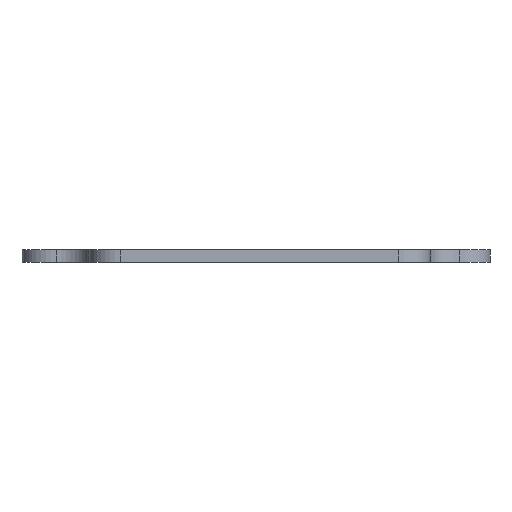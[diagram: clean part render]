
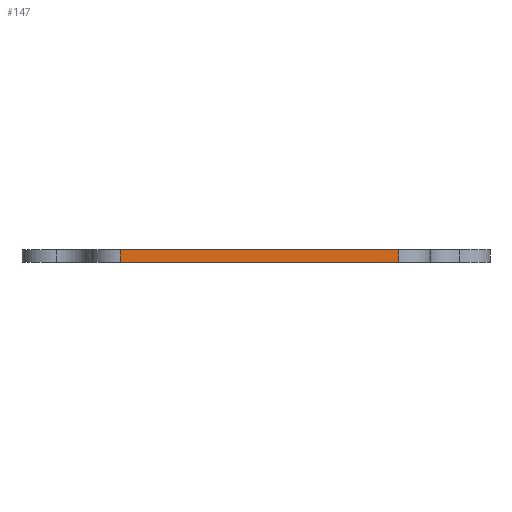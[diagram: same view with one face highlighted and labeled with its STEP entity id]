
A CAD part, left-side view. The second image highlights one B-rep face of the part: STEP entity #147.
In plain terms, the highlighted planar face has unit normal (-1, 0, 0).
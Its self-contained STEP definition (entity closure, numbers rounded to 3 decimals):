
#21 = EDGE_CURVE('',#22,#24,#26,.T.);
#22 = VERTEX_POINT('',#23);
#23 = CARTESIAN_POINT('',(2.2,132.611,24.));
#24 = VERTEX_POINT('',#25);
#25 = CARTESIAN_POINT('',(2.2,132.611,22.6));
#26 = SURFACE_CURVE('',#27,(#31,#43),.PCURVE_S1.);
#27 = LINE('',#28,#29);
#28 = CARTESIAN_POINT('',(2.2,132.611,24.));
#29 = VECTOR('',#30,1.);
#30 = DIRECTION('',(0.,0.,-1.));
#31 = PCURVE('',#32,#37);
#32 = CYLINDRICAL_SURFACE('',#33,3.6);
#33 = AXIS2_PLACEMENT_3D('',#34,#35,#36);
#34 = CARTESIAN_POINT('',(5.8,132.611,24.));
#35 = DIRECTION('',(0.,-0.,1.));
#36 = DIRECTION('',(0.,-1.,-0.));
#37 = DEFINITIONAL_REPRESENTATION('',(#38),#42);
#38 = LINE('',#39,#40);
#39 = CARTESIAN_POINT('',(-1.571,0.));
#40 = VECTOR('',#41,1.);
#41 = DIRECTION('',(-0.,-1.));
#42 = ( GEOMETRIC_REPRESENTATION_CONTEXT(2) 
PARAMETRIC_REPRESENTATION_CONTEXT() REPRESENTATION_CONTEXT('2D SPACE',''
  ) );
#43 = PCURVE('',#44,#49);
#44 = PLANE('',#45);
#45 = AXIS2_PLACEMENT_3D('',#46,#47,#48);
#46 = CARTESIAN_POINT('',(2.2,132.611,24.));
#47 = DIRECTION('',(-1.,0.,-0.));
#48 = DIRECTION('',(0.,-1.,-0.));
#49 = DEFINITIONAL_REPRESENTATION('',(#50),#54);
#50 = LINE('',#51,#52);
#51 = CARTESIAN_POINT('',(0.,0.));
#52 = VECTOR('',#53,1.);
#53 = DIRECTION('',(0.,-1.));
#54 = ( GEOMETRIC_REPRESENTATION_CONTEXT(2) 
PARAMETRIC_REPRESENTATION_CONTEXT() REPRESENTATION_CONTEXT('2D SPACE',''
  ) );
#73 = PLANE('',#74);
#74 = AXIS2_PLACEMENT_3D('',#75,#76,#77);
#75 = CARTESIAN_POINT('',(24.,117.2,22.6));
#76 = DIRECTION('',(0.,0.,1.));
#77 = DIRECTION('',(1.,0.,-0.));
#132 = PLANE('',#133);
#133 = AXIS2_PLACEMENT_3D('',#134,#135,#136);
#134 = CARTESIAN_POINT('',(24.,117.2,24.));
#135 = DIRECTION('',(0.,0.,1.));
#136 = DIRECTION('',(1.,0.,-0.));
#147 = ADVANCED_FACE('',(#148),#44,.T.);
#148 = FACE_BOUND('',#149,.T.);
#149 = EDGE_LOOP('',(#150,#151,#174,#202));
#150 = ORIENTED_EDGE('',*,*,#21,.T.);
#151 = ORIENTED_EDGE('',*,*,#152,.T.);
#152 = EDGE_CURVE('',#24,#153,#155,.T.);
#153 = VERTEX_POINT('',#154);
#154 = CARTESIAN_POINT('',(2.2,100.989,22.6));
#155 = SURFACE_CURVE('',#156,(#160,#167),.PCURVE_S1.);
#156 = LINE('',#157,#158);
#157 = CARTESIAN_POINT('',(2.2,140.2,22.6));
#158 = VECTOR('',#159,1.);
#159 = DIRECTION('',(0.,-1.,-0.));
#160 = PCURVE('',#44,#161);
#161 = DEFINITIONAL_REPRESENTATION('',(#162),#166);
#162 = LINE('',#163,#164);
#163 = CARTESIAN_POINT('',(-7.589,-1.4));
#164 = VECTOR('',#165,1.);
#165 = DIRECTION('',(1.,0.));
#166 = ( GEOMETRIC_REPRESENTATION_CONTEXT(2) 
PARAMETRIC_REPRESENTATION_CONTEXT() REPRESENTATION_CONTEXT('2D SPACE',''
  ) );
#167 = PCURVE('',#73,#168);
#168 = DEFINITIONAL_REPRESENTATION('',(#169),#173);
#169 = LINE('',#170,#171);
#170 = CARTESIAN_POINT('',(-21.8,23.));
#171 = VECTOR('',#172,1.);
#172 = DIRECTION('',(0.,-1.));
#173 = ( GEOMETRIC_REPRESENTATION_CONTEXT(2) 
PARAMETRIC_REPRESENTATION_CONTEXT() REPRESENTATION_CONTEXT('2D SPACE',''
  ) );
#174 = ORIENTED_EDGE('',*,*,#175,.F.);
#175 = EDGE_CURVE('',#176,#153,#178,.T.);
#176 = VERTEX_POINT('',#177);
#177 = CARTESIAN_POINT('',(2.2,100.989,24.));
#178 = SURFACE_CURVE('',#179,(#183,#190),.PCURVE_S1.);
#179 = LINE('',#180,#181);
#180 = CARTESIAN_POINT('',(2.2,100.989,24.));
#181 = VECTOR('',#182,1.);
#182 = DIRECTION('',(0.,0.,-1.));
#183 = PCURVE('',#44,#184);
#184 = DEFINITIONAL_REPRESENTATION('',(#185),#189);
#185 = LINE('',#186,#187);
#186 = CARTESIAN_POINT('',(31.623,0.));
#187 = VECTOR('',#188,1.);
#188 = DIRECTION('',(0.,-1.));
#189 = ( GEOMETRIC_REPRESENTATION_CONTEXT(2) 
PARAMETRIC_REPRESENTATION_CONTEXT() REPRESENTATION_CONTEXT('2D SPACE',''
  ) );
#190 = PCURVE('',#191,#196);
#191 = CYLINDRICAL_SURFACE('',#192,3.6);
#192 = AXIS2_PLACEMENT_3D('',#193,#194,#195);
#193 = CARTESIAN_POINT('',(5.8,100.989,24.));
#194 = DIRECTION('',(0.,-0.,1.));
#195 = DIRECTION('',(0.998,-0.057,-0.));
#196 = DEFINITIONAL_REPRESENTATION('',(#197),#201);
#197 = LINE('',#198,#199);
#198 = CARTESIAN_POINT('',(-3.084,0.));
#199 = VECTOR('',#200,1.);
#200 = DIRECTION('',(-0.,-1.));
#201 = ( GEOMETRIC_REPRESENTATION_CONTEXT(2) 
PARAMETRIC_REPRESENTATION_CONTEXT() REPRESENTATION_CONTEXT('2D SPACE',''
  ) );
#202 = ORIENTED_EDGE('',*,*,#203,.F.);
#203 = EDGE_CURVE('',#22,#176,#204,.T.);
#204 = SURFACE_CURVE('',#205,(#209,#216),.PCURVE_S1.);
#205 = LINE('',#206,#207);
#206 = CARTESIAN_POINT('',(2.2,140.2,24.));
#207 = VECTOR('',#208,1.);
#208 = DIRECTION('',(0.,-1.,-0.));
#209 = PCURVE('',#44,#210);
#210 = DEFINITIONAL_REPRESENTATION('',(#211),#215);
#211 = LINE('',#212,#213);
#212 = CARTESIAN_POINT('',(-7.589,0.));
#213 = VECTOR('',#214,1.);
#214 = DIRECTION('',(1.,0.));
#215 = ( GEOMETRIC_REPRESENTATION_CONTEXT(2) 
PARAMETRIC_REPRESENTATION_CONTEXT() REPRESENTATION_CONTEXT('2D SPACE',''
  ) );
#216 = PCURVE('',#132,#217);
#217 = DEFINITIONAL_REPRESENTATION('',(#218),#222);
#218 = LINE('',#219,#220);
#219 = CARTESIAN_POINT('',(-21.8,23.));
#220 = VECTOR('',#221,1.);
#221 = DIRECTION('',(0.,-1.));
#222 = ( GEOMETRIC_REPRESENTATION_CONTEXT(2) 
PARAMETRIC_REPRESENTATION_CONTEXT() REPRESENTATION_CONTEXT('2D SPACE',''
  ) );
